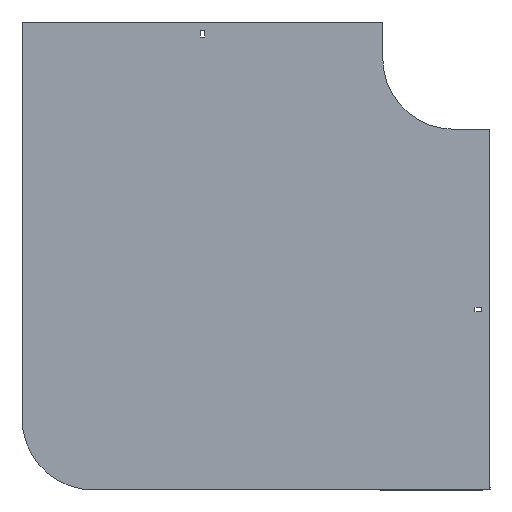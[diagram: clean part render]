
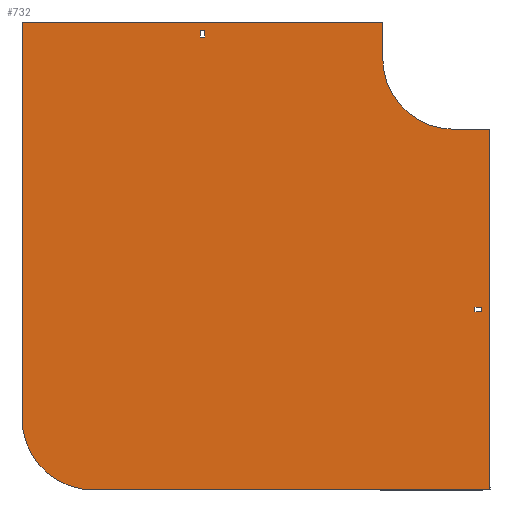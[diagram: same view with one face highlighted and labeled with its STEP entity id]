
A CAD part, front view. The second image highlights one B-rep face of the part: STEP entity #732.
In plain terms, the highlighted planar face has unit normal (0, -1, 0).
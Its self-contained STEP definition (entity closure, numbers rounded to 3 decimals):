
#18 = CARTESIAN_POINT ( 'NONE',  ( -100., 0., 50. ) ) ;
#39 = CARTESIAN_POINT ( 'NONE',  ( -355.25, 0., 29. ) ) ;
#74 = CARTESIAN_POINT ( 'NONE',  ( -604., 0., -504. ) ) ;
#94 = EDGE_CURVE ( 'NONE', #798, #1044, #145, .T. ) ;
#104 = CARTESIAN_POINT ( 'NONE',  ( -355.25, 0., 29. ) ) ;
#115 = FACE_OUTER_BOUND ( 'NONE', #984, .T. ) ;
#133 = VERTEX_POINT ( 'NONE', #769 ) ;
#140 = ORIENTED_EDGE ( 'NONE', *, *, #333, .F. ) ;
#142 = CARTESIAN_POINT ( 'NONE',  ( 29., 0., -355.25 ) ) ;
#145 = LINE ( 'NONE', #1246, #490 ) ;
#146 = LINE ( 'NONE', #260, #219 ) ;
#149 = ORIENTED_EDGE ( 'NONE', *, *, #644, .F. ) ;
#152 = VERTEX_POINT ( 'NONE', #656 ) ;
#155 = VERTEX_POINT ( 'NONE', #459 ) ;
#158 = AXIS2_PLACEMENT_3D ( 'NONE', #768, #748, #443 ) ;
#178 = VERTEX_POINT ( 'NONE', #18 ) ;
#182 = CARTESIAN_POINT ( 'NONE',  ( -604., 0., 50. ) ) ;
#187 = EDGE_CURVE ( 'NONE', #152, #1176, #1081, .T. ) ;
#195 = LINE ( 'NONE', #74, #650 ) ;
#197 = VERTEX_POINT ( 'NONE', #1304 ) ;
#210 = EDGE_CURVE ( 'NONE', #398, #255, #195, .T. ) ;
#217 = DIRECTION ( 'NONE',  ( 1., 0., 0. ) ) ;
#219 = VECTOR ( 'NONE', #367, 1000. ) ;
#242 = VERTEX_POINT ( 'NONE', #1064 ) ;
#255 = VERTEX_POINT ( 'NONE', #182 ) ;
#260 = CARTESIAN_POINT ( 'NONE',  ( -100., 0., 50. ) ) ;
#271 = CIRCLE ( 'NONE', #158, 100. ) ;
#276 = ORIENTED_EDGE ( 'NONE', *, *, #1371, .F. ) ;
#290 = DIRECTION ( 'NONE',  ( 0., 0., -1. ) ) ;
#296 = VERTEX_POINT ( 'NONE', #759 ) ;
#297 = LINE ( 'NONE', #1260, #771 ) ;
#302 = VECTOR ( 'NONE', #217, 1000. ) ;
#310 = AXIS2_PLACEMENT_3D ( 'NONE', #697, #912, #1330 ) ;
#327 = EDGE_CURVE ( 'NONE', #133, #540, #866, .T. ) ;
#333 = EDGE_CURVE ( 'NONE', #242, #197, #271, .T. ) ;
#335 = ORIENTED_EDGE ( 'NONE', *, *, #466, .T. ) ;
#336 = EDGE_LOOP ( 'NONE', ( #537, #766, #986, #692 ) ) ;
#341 = VECTOR ( 'NONE', #1398, 1000. ) ;
#344 = FACE_BOUND ( 'NONE', #349, .T. ) ;
#346 = EDGE_CURVE ( 'NONE', #197, #526, #980, .T. ) ;
#349 = EDGE_LOOP ( 'NONE', ( #335, #1011, #1131, #1325 ) ) ;
#367 = DIRECTION ( 'NONE',  ( 0., 0., -1. ) ) ;
#395 = DIRECTION ( 'NONE',  ( 0., 0., 1. ) ) ;
#398 = VERTEX_POINT ( 'NONE', #1086 ) ;
#415 = VECTOR ( 'NONE', #1128, 1000. ) ;
#438 = DIRECTION ( 'NONE',  ( -1., 0., 0. ) ) ;
#443 = DIRECTION ( 'NONE',  ( 0., 0., -1. ) ) ;
#456 = CARTESIAN_POINT ( 'NONE',  ( -504., 0., -604. ) ) ;
#459 = CARTESIAN_POINT ( 'NONE',  ( 29., 0., -355.25 ) ) ;
#460 = ORIENTED_EDGE ( 'NONE', *, *, #210, .F. ) ;
#466 = EDGE_CURVE ( 'NONE', #540, #152, #672, .T. ) ;
#490 = VECTOR ( 'NONE', #1121, 1000. ) ;
#504 = ORIENTED_EDGE ( 'NONE', *, *, #1373, .F. ) ;
#519 = CARTESIAN_POINT ( 'NONE',  ( 38., 0., -355.25 ) ) ;
#526 = VERTEX_POINT ( 'NONE', #1217 ) ;
#536 = DIRECTION ( 'NONE',  ( 0., 0., -1. ) ) ;
#537 = ORIENTED_EDGE ( 'NONE', *, *, #681, .F. ) ;
#540 = VERTEX_POINT ( 'NONE', #589 ) ;
#542 = CARTESIAN_POINT ( 'NONE',  ( 38., 0., -348.75 ) ) ;
#549 = CARTESIAN_POINT ( 'NONE',  ( 0., 0., 0. ) ) ;
#553 = EDGE_CURVE ( 'NONE', #1044, #155, #598, .T. ) ;
#577 = VECTOR ( 'NONE', #438, 1000. ) ;
#589 = CARTESIAN_POINT ( 'NONE',  ( -355.25, 0., 29. ) ) ;
#594 = VERTEX_POINT ( 'NONE', #1033 ) ;
#598 = LINE ( 'NONE', #1144, #1092 ) ;
#602 = LINE ( 'NONE', #1145, #998 ) ;
#614 = DIRECTION ( 'NONE',  ( 0., 0., -1. ) ) ;
#621 = ORIENTED_EDGE ( 'NONE', *, *, #818, .F. ) ;
#631 = VECTOR ( 'NONE', #614, 1000. ) ;
#640 = DIRECTION ( 'NONE',  ( 1., 0., 0. ) ) ;
#644 = EDGE_CURVE ( 'NONE', #526, #594, #297, .T. ) ;
#650 = VECTOR ( 'NONE', #395, 1000. ) ;
#656 = CARTESIAN_POINT ( 'NONE',  ( -355.25, 0., 38. ) ) ;
#672 = LINE ( 'NONE', #39, #814 ) ;
#681 = EDGE_CURVE ( 'NONE', #296, #798, #1268, .T. ) ;
#692 = ORIENTED_EDGE ( 'NONE', *, *, #94, .F. ) ;
#697 = CARTESIAN_POINT ( 'NONE',  ( -504., 0., -504. ) ) ;
#707 = DIRECTION ( 'NONE',  ( -1., 0., 0. ) ) ;
#726 = AXIS2_PLACEMENT_3D ( 'NONE', #549, #1291, #536 ) ;
#730 = DIRECTION ( 'NONE',  ( 0., 0., -1. ) ) ;
#732 = ADVANCED_FACE ( 'NONE', ( #344, #115, #1177 ), #853, .T. ) ;
#742 = CARTESIAN_POINT ( 'NONE',  ( -348.75, 0., 38. ) ) ;
#748 = DIRECTION ( 'NONE',  ( 0., -1., 0. ) ) ;
#759 = CARTESIAN_POINT ( 'NONE',  ( 38., 0., -355.25 ) ) ;
#766 = ORIENTED_EDGE ( 'NONE', *, *, #887, .F. ) ;
#768 = CARTESIAN_POINT ( 'NONE',  ( 0., 0., 0. ) ) ;
#769 = CARTESIAN_POINT ( 'NONE',  ( -348.75, 0., 29. ) ) ;
#771 = VECTOR ( 'NONE', #290, 1000. ) ;
#798 = VERTEX_POINT ( 'NONE', #542 ) ;
#814 = VECTOR ( 'NONE', #1221, 1000. ) ;
#817 = CIRCLE ( 'NONE', #310, 100. ) ;
#818 = EDGE_CURVE ( 'NONE', #255, #178, #1091, .T. ) ;
#853 = PLANE ( 'NONE',  #726 ) ;
#858 = CARTESIAN_POINT ( 'NONE',  ( -355.25, 0., 38. ) ) ;
#866 = LINE ( 'NONE', #104, #577 ) ;
#877 = VECTOR ( 'NONE', #943, 1000. ) ;
#887 = EDGE_CURVE ( 'NONE', #155, #296, #987, .T. ) ;
#912 = DIRECTION ( 'NONE',  ( 0., 1., 0. ) ) ;
#933 = ORIENTED_EDGE ( 'NONE', *, *, #1366, .F. ) ;
#943 = DIRECTION ( 'NONE',  ( 0., 0., 1. ) ) ;
#950 = VERTEX_POINT ( 'NONE', #456 ) ;
#978 = EDGE_CURVE ( 'NONE', #1176, #133, #1267, .T. ) ;
#980 = LINE ( 'NONE', #1309, #341 ) ;
#984 = EDGE_LOOP ( 'NONE', ( #621, #460, #933, #504, #149, #1362, #140, #276 ) ) ;
#986 = ORIENTED_EDGE ( 'NONE', *, *, #553, .F. ) ;
#987 = LINE ( 'NONE', #142, #415 ) ;
#998 = VECTOR ( 'NONE', #707, 1000. ) ;
#1011 = ORIENTED_EDGE ( 'NONE', *, *, #187, .T. ) ;
#1033 = CARTESIAN_POINT ( 'NONE',  ( 50., 0., -604. ) ) ;
#1044 = VERTEX_POINT ( 'NONE', #1052 ) ;
#1052 = CARTESIAN_POINT ( 'NONE',  ( 29., 0., -348.75 ) ) ;
#1064 = CARTESIAN_POINT ( 'NONE',  ( -100., 0., 0. ) ) ;
#1081 = LINE ( 'NONE', #858, #1152 ) ;
#1086 = CARTESIAN_POINT ( 'NONE',  ( -604., 0., -504. ) ) ;
#1091 = LINE ( 'NONE', #1185, #302 ) ;
#1092 = VECTOR ( 'NONE', #730, 1000. ) ;
#1121 = DIRECTION ( 'NONE',  ( -1., 0., 0. ) ) ;
#1128 = DIRECTION ( 'NONE',  ( 1., 0., 0. ) ) ;
#1131 = ORIENTED_EDGE ( 'NONE', *, *, #978, .T. ) ;
#1144 = CARTESIAN_POINT ( 'NONE',  ( 29., 0., -355.25 ) ) ;
#1145 = CARTESIAN_POINT ( 'NONE',  ( 50., 0., -604. ) ) ;
#1152 = VECTOR ( 'NONE', #640, 1000. ) ;
#1176 = VERTEX_POINT ( 'NONE', #742 ) ;
#1177 = FACE_BOUND ( 'NONE', #336, .T. ) ;
#1185 = CARTESIAN_POINT ( 'NONE',  ( -604., 0., 50. ) ) ;
#1217 = CARTESIAN_POINT ( 'NONE',  ( 50., 0., -100. ) ) ;
#1221 = DIRECTION ( 'NONE',  ( 0., 0., 1. ) ) ;
#1246 = CARTESIAN_POINT ( 'NONE',  ( 29., 0., -348.75 ) ) ;
#1260 = CARTESIAN_POINT ( 'NONE',  ( 50., 0., -100. ) ) ;
#1267 = LINE ( 'NONE', #1370, #631 ) ;
#1268 = LINE ( 'NONE', #519, #877 ) ;
#1291 = DIRECTION ( 'NONE',  ( 0., -1., 0. ) ) ;
#1304 = CARTESIAN_POINT ( 'NONE',  ( 0., 0., -100. ) ) ;
#1309 = CARTESIAN_POINT ( 'NONE',  ( 0., 0., -100. ) ) ;
#1325 = ORIENTED_EDGE ( 'NONE', *, *, #327, .T. ) ;
#1330 = DIRECTION ( 'NONE',  ( 0., 0., 1. ) ) ;
#1362 = ORIENTED_EDGE ( 'NONE', *, *, #346, .F. ) ;
#1366 = EDGE_CURVE ( 'NONE', #950, #398, #817, .T. ) ;
#1370 = CARTESIAN_POINT ( 'NONE',  ( -348.75, 0., 29. ) ) ;
#1371 = EDGE_CURVE ( 'NONE', #178, #242, #146, .T. ) ;
#1373 = EDGE_CURVE ( 'NONE', #594, #950, #602, .T. ) ;
#1398 = DIRECTION ( 'NONE',  ( 1., 0., 0. ) ) ;
